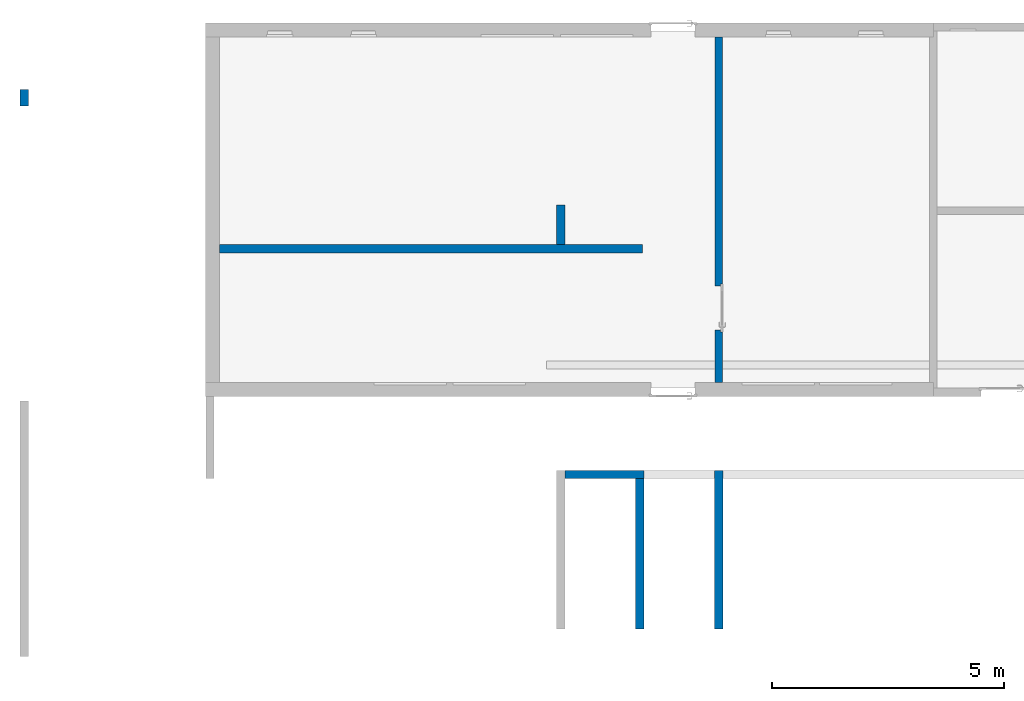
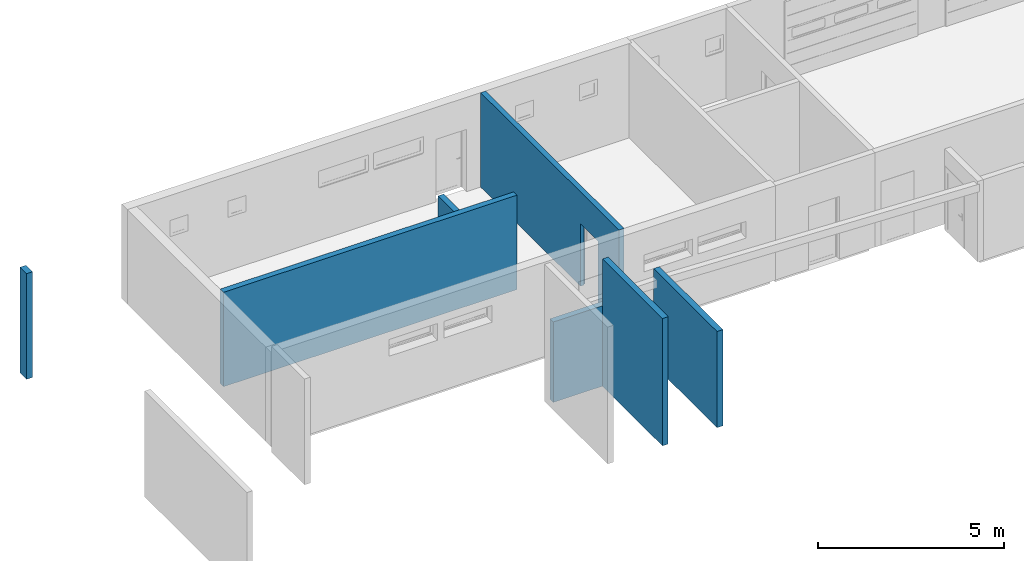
# One storey, part 2 of 9: 7 walls, 1 opening.
"""IFC2X3 building model written with IfcOpenShell, lengths in metres."""

from ifc_helpers import new_model, entity, si_unit, converted_unit, derived_unit, direction, frame, frame_2d, origin, place, context, subcontext, project, spatial, polyline, rectangle, extrude, clip, bounded_halfspace, faceted_brep, material, layer, layer_set, layer_usage, type_object, element, save


model = new_model("IFC2X3")

# Units and contexts
model_context = context("Model", 3, precision=1e-05, world=origin(), true_north=direction((6.12303176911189e-17, 1.0)))
body_context = subcontext(model_context, "Body", "Model", "MODEL_VIEW")
ifc_project = project(units=[si_unit("LENGTHUNIT", "METRE"), si_unit("AREAUNIT", "SQUARE_METRE"), si_unit("VOLUMEUNIT", "CUBIC_METRE"), converted_unit("PLANEANGLEUNIT", "DEGREE", entity("IfcRatioMeasure", 0.0174532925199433), si_unit("PLANEANGLEUNIT", "RADIAN"), dimensions=[0, 0, 0, 0, 0, 0, 0]), si_unit("MASSUNIT", "GRAM", prefix="KILO"), derived_unit("MASSDENSITYUNIT", [(si_unit("MASSUNIT", "GRAM", prefix="KILO"), 1), (si_unit("LENGTHUNIT", "METRE"), -3)]), si_unit("TIMEUNIT", "SECOND"), si_unit("FREQUENCYUNIT", "HERTZ"), si_unit("THERMODYNAMICTEMPERATUREUNIT", "DEGREE_CELSIUS"), derived_unit("THERMALTRANSMITTANCEUNIT", [(si_unit("MASSUNIT", "GRAM", prefix="KILO"), 1), (si_unit("THERMODYNAMICTEMPERATUREUNIT", "KELVIN"), -1), (si_unit("TIMEUNIT", "SECOND"), -3)]), derived_unit("VOLUMETRICFLOWRATEUNIT", [(si_unit("LENGTHUNIT", "METRE"), 3), (si_unit("TIMEUNIT", "SECOND"), -1)]), si_unit("ELECTRICCURRENTUNIT", "AMPERE"), si_unit("ELECTRICVOLTAGEUNIT", "VOLT"), si_unit("POWERUNIT", "WATT"), si_unit("FORCEUNIT", "NEWTON", prefix="KILO"), si_unit("ILLUMINANCEUNIT", "LUX"), si_unit("LUMINOUSFLUXUNIT", "LUMEN"), si_unit("LUMINOUSINTENSITYUNIT", "CANDELA"), derived_unit("USERDEFINED", [(si_unit("MASSUNIT", "GRAM", prefix="KILO"), -1), (si_unit("LENGTHUNIT", "METRE"), -2), (si_unit("TIMEUNIT", "SECOND"), 3), (si_unit("LUMINOUSFLUXUNIT", "LUMEN"), 1)]), derived_unit("LINEARVELOCITYUNIT", [(si_unit("LENGTHUNIT", "METRE"), 1), (si_unit("TIMEUNIT", "SECOND"), -1)]), si_unit("PRESSUREUNIT", "PASCAL"), derived_unit("USERDEFINED", [(si_unit("LENGTHUNIT", "METRE"), -2), (si_unit("MASSUNIT", "GRAM", prefix="KILO"), 1), (si_unit("TIMEUNIT", "SECOND"), -2)])], contexts=[model_context])

# Site, building, storey
site_placement = place(None, origin())
site = spatial("IfcSite", under=ifc_project, at=site_placement, Name="Default", CompositionType="ELEMENT")
building_placement = place(site_placement, origin())
building = spatial("IfcBuilding", under=site, at=building_placement, CompositionType="ELEMENT")
storey_placement = place(building_placement, origin())
storey = spatial("IfcBuildingStorey", under=building, at=storey_placement, Name="Niveau 0", CompositionType="ELEMENT", Elevation=-1.94916083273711e-14)

# Walls
ifc_material = material(Name="Maçonnerie - Voile BA")
ifc_layer_1 = layer(ifc_material, 0.18)
ifc_layer_set_1 = layer_set([ifc_layer_1], Name="Mur de base:Ext. Voile BA 18")
ifc_layer_usage_1 = layer_usage(ifc_layer_set_1, "AXIS2", "NEGATIVE", 0.09)
wall_type_1 = type_object("IfcWallType", Name="Mur de base:Ext. Voile BA 18", PredefinedType="NOTDEFINED")
wall_1_placement = place(storey_placement, frame((-12.0839657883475, -1.85088141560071, 0.0)))
element("IfcWallStandardCase", 1, at=wall_1_placement, inside=storey, type_object=wall_type_1, material=ifc_layer_usage_1, Name="Mur de base:Ext. Voile BA 18", ObjectType="Mur de base:Ext. Voile BA 18", context=body_context, shape_type="Clipping", body=[
    clip(extrude(rectangle(XDim=9.11096578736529, YDim=0.18, at=frame_2d((4.55548289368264, -4.85722573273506e-17), x_axis=(-1.0, 0.0))), origin(), (0.0, 0.0, 1.0), 3.10000000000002), bounded_halfspace(frame((0.0, -0.0899999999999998, 3.10000000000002), z_axis=(0.0, 0.0, -1.0), x_axis=(1.0, 0.0, 0.0)), True, frame((0.0, -0.0899999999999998, 3.10000000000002)), polyline([(0.0, 0.0), (9.11096578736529, 0.0), (9.11096578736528, 0.18), (7.44000701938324, 0.18), (7.26000701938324, 0.18), (0.0, 0.18), (0.0, 0.0)]))),
])
ifc_layer_usage_2 = layer_usage(ifc_layer_set_1, "AXIS2", "NEGATIVE", 0.09)
wall_2_placement = place(storey_placement, frame((-4.73395876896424, -1.76088141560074, 0.0), z_axis=(0.0, 0.0, 1.0), x_axis=(0.0, 1.0, 0.0)))
element("IfcWallStandardCase", 2, at=wall_2_placement, inside=storey, type_object=wall_type_1, material=ifc_layer_usage_2, Name="Mur de base:Ext. Voile BA 18", ObjectType="Mur de base:Ext. Voile BA 18", context=body_context, shape_type="Clipping", body=[
    clip(extrude(rectangle(XDim=0.849999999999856, YDim=0.18, at=frame_2d((0.424999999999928, 0.0), x_axis=(-1.0, 0.0))), origin(), (0.0, 0.0, 1.0), 3.10000000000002), bounded_halfspace(frame((0.0, -0.0900000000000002, 3.10000000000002), z_axis=(0.0, 0.0, -1.0), x_axis=(0.0, -1.0, 0.0)), True, frame((0.0, -0.0900000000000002, 3.10000000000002)), polyline([(0.0, 0.0), (0.849999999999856, 0.0), (0.849999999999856, 0.18), (0.0, 0.18), (0.0, 0.0)]))),
])
ifc_layer_usage_3 = layer_usage(ifc_layer_set_1, "AXIS2", "NEGATIVE", 0.09)
wall_3_placement = place(storey_placement, frame((-1.33802183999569, -6.62088141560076, -0.17), z_axis=(0.0, 0.0, 1.0), x_axis=(0.0, -1.0, 0.0)))
element("IfcWallStandardCase", 3, at=wall_3_placement, inside=storey, type_object=wall_type_1, material=ifc_layer_usage_3, Name="Mur de base:Ext. Voile BA 18", ObjectType="Mur de base:Ext. Voile BA 18", context=body_context, shape_type="SweptSolid", body=[
    extrude(rectangle(XDim=3.41, YDim=0.18, at=frame_2d((1.705, 0.0), x_axis=(-1.0, 0.0))), origin(), (0.0, 0.0, 1.0), 3.16),
])
ifc_layer_usage_4 = layer_usage(ifc_layer_set_1, "AXIS2", "NEGATIVE", 0.09)
wall_4_placement = place(storey_placement, frame((-4.64395876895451, -6.7108814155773, -0.17)))
element("IfcWallStandardCase", 4, at=wall_4_placement, inside=storey, type_object=wall_type_1, material=ifc_layer_usage_4, Name="Mur de base:Ext. Voile BA 18", ObjectType="Mur de base:Ext. Voile BA 18", context=body_context, shape_type="SweptSolid", body=[
    extrude(rectangle(XDim=1.69999999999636, YDim=0.18, at=frame_2d((0.84999999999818, 0.0), x_axis=(-1.0, 0.0))), origin(), (0.0, 0.0, 1.0), 2.63966027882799),
])
ifc_layer_usage_5 = layer_usage(ifc_layer_set_1, "AXIS2", "NEGATIVE", 0.09)
wall_5_placement = place(storey_placement, frame((-3.03395876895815, -6.8008814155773, -0.17), z_axis=(0.0, 0.0, 1.0), x_axis=(0.0, -1.0, 0.0)))
element("IfcWallStandardCase", 5, at=wall_5_placement, inside=storey, type_object=wall_type_1, material=ifc_layer_usage_5, Name="Mur de base:Ext. Voile BA 18", ObjectType="Mur de base:Ext. Voile BA 18", context=body_context, shape_type="SweptSolid", body=[
    extrude(rectangle(XDim=3.22989261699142, YDim=0.18, at=frame_2d((1.61494630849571, 1.2490009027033e-16), x_axis=(-1.0, 0.0))), origin(), (0.0, 0.0, 1.0), 4.18),
])
ifc_layer_usage_6 = layer_usage(ifc_layer_set_1, "AXIS2", "NEGATIVE", 0.09)
wall_6_placement = place(storey_placement, frame((-16.2839587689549, 1.56911858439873, -0.17), z_axis=(0.0, 0.0, 1.0), x_axis=(0.0, -1.0, 0.0)))
element("IfcWallStandardCase", 6, at=wall_6_placement, inside=storey, type_object=wall_type_1, material=ifc_layer_usage_6, Name="Mur de base:Ext. Voile BA 18", ObjectType="Mur de base:Ext. Voile BA 18", context=body_context, shape_type="SweptSolid", body=[
    extrude(rectangle(XDim=0.349999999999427, YDim=0.179999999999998, at=frame_2d((0.174999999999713, 0.0), x_axis=(-1.0, 0.0))), origin(), (0.0, 0.0, 1.0), 3.47000000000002),
])

# Wall, opening
ifc_layer_2 = layer(ifc_material, 0.16)
ifc_layer_set_2 = layer_set([ifc_layer_2], Name="Mur de base:Refend. Voile BA 16")
ifc_layer_usage_7 = layer_usage(ifc_layer_set_2, "AXIS2", "NEGATIVE", 0.08)
wall_type_2 = type_object("IfcWallType", Name="Mur de base:Refend. Voile BA 16", PredefinedType="STANDARD", material=ifc_layer_set_2)
wall_7_placement = place(storey_placement, frame((-1.33395876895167, -4.73088141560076, 0.0), z_axis=(0.0, 0.0, 1.0), x_axis=(0.0, 1.0, 0.0)))
wall_7 = element("IfcWallStandardCase", 7, at=wall_7_placement, inside=storey, type_object=wall_type_2, material=ifc_layer_usage_7, Name="Mur de base:Refend. Voile BA 16", ObjectType="Mur de base:Refend. Voile BA 16", context=body_context, shape_type="Clipping", body=[
    clip(extrude(rectangle(XDim=7.44, YDim=0.16, at=frame_2d((3.72, 0.0), x_axis=(-1.0, 0.0))), origin(), (0.0, 0.0, 1.0), 3.10000000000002), bounded_halfspace(frame((0.0, -0.0799999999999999, 3.10000000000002), z_axis=(0.0, 0.0, -1.0), x_axis=(0.0, -1.0, 0.0)), True, frame((0.0, -0.0799999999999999, 3.10000000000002)), polyline([(0.0, 0.0), (7.44, 0.0), (7.44, 0.159999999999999), (0.0, 0.16), (0.0, 0.0)]))),
])
opening_placement = place(wall_7_placement, frame((1.08500000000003, 0.380000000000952, 0.0), z_axis=(0.0, 0.0, 1.0), x_axis=(0.0, -1.0, 0.0)))
element("IfcOpeningElement", 8, at=opening_placement, cuts=wall_7, Name="Mur de base:Refend. Voile BA 16", ObjectType="Opening", context=body_context, shape_type="Brep", body=[
    faceted_brep([(0.760000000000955, 0.989999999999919, 2.05000000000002), (0.460000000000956, 0.989999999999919, 2.05000000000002), (0.460000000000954, 0.0400000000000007, 2.05000000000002), (0.760000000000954, 0.0400000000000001, 2.05000000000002), (0.0, 0.98999999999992, 0.0), (0.410000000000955, 0.989999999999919, 0.0), (0.410000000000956, 1.02999999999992, 0.0), (0.460000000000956, 1.02999999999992, 0.0), (0.460000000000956, 0.989999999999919, 0.0), (0.760000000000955, 0.989999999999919, 0.0), (0.760000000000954, 0.0400000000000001, 0.0), (0.460000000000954, 0.0400000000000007, 0.0), (0.460000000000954, 0.0, 0.0), (0.410000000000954, 0.0, 0.0), (0.410000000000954, 0.0400000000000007, 0.0), (0.0, 0.0400000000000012, 0.0), (0.0, 0.98999999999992, 2.05000000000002), (0.0, 0.0400000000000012, 2.05000000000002), (0.410000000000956, 0.989999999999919, 2.05000000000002), (0.460000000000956, 1.02999999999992, 2.09000000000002), (0.460000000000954, 0.0, 2.09000000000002), (0.410000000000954, 0.0, 2.09000000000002), (0.410000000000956, 1.02999999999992, 2.09000000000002), (0.410000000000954, 0.0400000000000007, 2.05000000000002)], [[[0, 1, 2, 3]], [[4, 5, 6, 7, 8, 9, 10, 11, 12, 13, 14, 15]], [[16, 4, 15, 17]], [[3, 2, 11, 10]], [[3, 10, 9, 0]], [[16, 18, 5, 4]], [[11, 2, 1, 8, 7, 19, 20, 12]], [[12, 20, 21, 13]], [[13, 21, 22, 6, 5, 18, 23, 14]], [[19, 22, 21, 20]], [[7, 6, 22, 19]], [[9, 8, 1, 0]], [[15, 14, 23, 17]], [[17, 23, 18, 16]]]),
])

save(model, "model.ifc")
